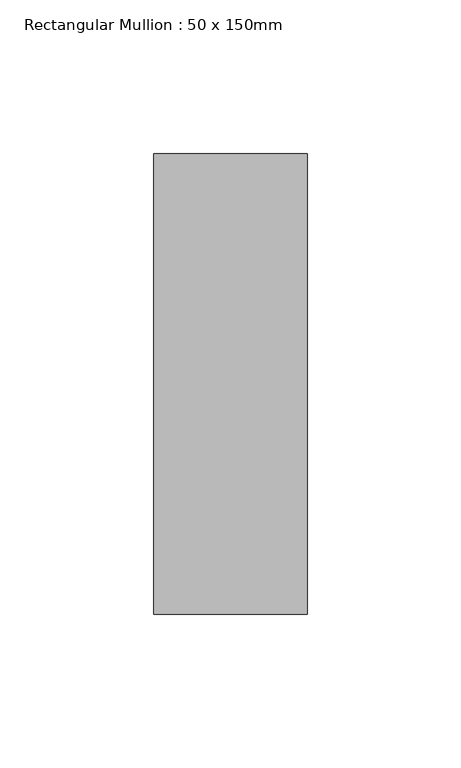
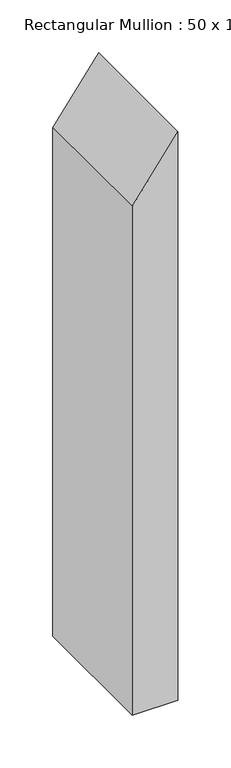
"""IFC4 building model written with IfcOpenShell, lengths in millimetres: member geometry, Rectangular Mullion : 50 x 150mm."""

import ifcopenshell
import ifcopenshell.guid

model = None  # the IFC model being written
_history = None  # IfcOwnerHistory: only IFC2X3 demands one
_inside = {}  # id of a spatial element -> (the spatial element, [elements in it])
_under = {}  # id of a project, library or spatial element -> (it, [spatial elements below it])
_declared = {}  # id of a project -> (the project, [libraries it declares])
_typed = {}  # id of a type object -> (the type object, [elements of that type])
_made_of = {}  # id of a material, layer set ... -> (it, [elements and type objects made of it])


def new_model(schema):
    """Start an empty IFC model of exactly this schema.

    Asked for "IFC4X3", IfcOpenShell would pick the latest addendum, in which some entities
    have other attributes; the version numbers below select the first issue.
    IFC2X3 requires an IfcOwnerHistory on every rooted entity: one is made here for all.
    """
    global model, _history
    if schema == "IFC4X3":
        model = ifcopenshell.file(schema_version=(4, 3, 0, 0))
    else:
        model = ifcopenshell.file(schema=schema)
    _inside.clear()
    _under.clear()
    _declared.clear()
    _typed.clear()
    _made_of.clear()
    _history = None
    if model.schema == "IFC2X3":
        org = make("IfcOrganization", Name="unknown")
        user = make(
            "IfcPersonAndOrganization",
            ThePerson=make("IfcPerson", FamilyName="unknown"),
            TheOrganization=org,
        )
        app = make(
            "IfcApplication",
            ApplicationDeveloper=org,
            Version="unknown",
            ApplicationFullName="unknown",
            ApplicationIdentifier="unknown",
        )
        _history = make(
            "IfcOwnerHistory",
            OwningUser=user,
            OwningApplication=app,
            ChangeAction="ADDED",
            CreationDate=0,
        )
    return model


def make(cls, **values):
    """One entity of the class cls with the attributes given. An attribute that is None is left unset."""
    return model.create_entity(
        cls, **{name: value for name, value in values.items() if value is not None}
    )


def rooted(cls, **values):
    """An entity with a GlobalId (a new one), such as an element, a storey or a relation."""
    return make(cls, GlobalId=ifcopenshell.guid.new(), OwnerHistory=_history, **values)


def si_unit(unit_type, name, prefix=None):
    """IfcSIUnit, for example si_unit("LENGTHUNIT", "METRE", prefix="MILLI")."""
    return make("IfcSIUnit", UnitType=unit_type, Prefix=prefix, Name=name)


def assignment(units):
    """IfcUnitAssignment: the units of a project."""
    return None if units is None else make("IfcUnitAssignment", Units=units)


def point(xyz):
    """IfcCartesianPoint."""
    return None if xyz is None else make("IfcCartesianPoint", Coordinates=xyz)


def direction(xyz):
    """IfcDirection."""
    return None if xyz is None else make("IfcDirection", DirectionRatios=xyz)


def frame(location, z_axis=None, x_axis=None):
    """IfcAxis2Placement3D, a coordinate frame: its origin and axes. An axis left out is left unset."""
    return make(
        "IfcAxis2Placement3D",
        Location=point(location),
        Axis=direction(z_axis),
        RefDirection=direction(x_axis),
    )


def origin():
    """The frame at (0, 0, 0) with its axes left unset."""
    return frame((0.0, 0.0, 0.0))


def place(relative_to, where):
    """IfcLocalPlacement: puts the frame where relative to a parent placement (None: the world)."""
    return make(
        "IfcLocalPlacement", PlacementRelTo=relative_to, RelativePlacement=where
    )


def context(
    kind, dimensions, precision=None, world=None, true_north=None, identifier=None
):
    """IfcGeometricRepresentationContext, for example the 3D "Model" context."""
    return make(
        "IfcGeometricRepresentationContext",
        ContextIdentifier=identifier,
        ContextType=kind,
        CoordinateSpaceDimension=dimensions,
        Precision=precision,
        WorldCoordinateSystem=world,
        TrueNorth=true_north,
    )


def project(units=None, contexts=None):
    """IfcProject with its units and contexts."""
    return rooted(
        "IfcProject",
        Name="project",
        RepresentationContexts=contexts,
        UnitsInContext=assignment(units),
    )


def spatial(cls, under=None, at=None, **own):
    """A site, building, storey or space (cls), placed at a placement, below another one or the project."""
    s = rooted(cls, ObjectPlacement=at, **own)
    if under is not None:
        _under.setdefault(under.id(), (under, []))[1].append(s)
    return s


def polyline(points):
    """IfcPolyline through the points."""
    return make("IfcPolyline", Points=[point(p) for p in points])


def outline(outer, holes=None, kind="AREA"):
    """IfcArbitraryClosedProfileDef: a profile drawn as a closed curve; with holes, ...WithVoids."""
    if holes is None:
        return make("IfcArbitraryClosedProfileDef", ProfileType=kind, OuterCurve=outer)
    return make(
        "IfcArbitraryProfileDefWithVoids",
        ProfileType=kind,
        OuterCurve=outer,
        InnerCurves=holes,
    )


def extrude(swept, where, along, depth):
    """IfcExtrudedAreaSolid: the profile swept, set in the frame where, extruded along a direction by depth."""
    return make(
        "IfcExtrudedAreaSolid",
        SweptArea=swept,
        Position=where,
        ExtrudedDirection=direction(along),
        Depth=depth,
    )


def shape(context_of_items, identifier, shape_type, items):
    """IfcShapeRepresentation: the items that make up one representation, for example the "Body"."""
    return make(
        "IfcShapeRepresentation",
        ContextOfItems=context_of_items,
        RepresentationIdentifier=identifier,
        RepresentationType=shape_type,
        Items=items,
    )


def source(mapping_origin, context_of_items, identifier, shape_type, items):
    """IfcRepresentationMap: a shape defined once, which mapped items show again and again."""
    return make(
        "IfcRepresentationMap",
        MappingOrigin=mapping_origin,
        MappedRepresentation=shape(context_of_items, identifier, shape_type, items),
    )


def transform(
    local_origin,
    x_axis=None,
    y_axis=None,
    z_axis=None,
    scale=None,
    scale2=None,
    scale3=None,
    uniform=True,
):
    """IfcCartesianTransformationOperator3D, or its non-uniform kind. x_axis, y_axis, z_axis: its Axis1, 2, 3."""
    if uniform:
        return make(
            "IfcCartesianTransformationOperator3D",
            Axis1=direction(x_axis),
            Axis2=direction(y_axis),
            LocalOrigin=point(local_origin),
            Scale=scale,
            Axis3=direction(z_axis),
        )
    return make(
        "IfcCartesianTransformationOperator3DnonUniform",
        Axis1=direction(x_axis),
        Axis2=direction(y_axis),
        LocalOrigin=point(local_origin),
        Scale=scale,
        Axis3=direction(z_axis),
        Scale2=scale2,
        Scale3=scale3,
    )


def mapped(mapping_source, mapping_target):
    """IfcMappedItem: shows the shape of a source again, moved by a transform."""
    return make(
        "IfcMappedItem", MappingSource=mapping_source, MappingTarget=mapping_target
    )


def made_of(thing, what):
    """Note that an element or type object is made of a material, layer set ...; save() writes the relation."""
    if what is not None:
        _made_of.setdefault(what.id(), (what, []))[1].append(thing)
    return thing


def element(
    cls,
    number,
    at=None,
    inside=None,
    cuts=None,
    type_object=None,
    material=None,
    context=None,
    identifier="Body",
    shape_type=None,
    held_by="IfcProductDefinitionShape",
    body=None,
    shapes=None,
    **own,
):
    """One element of the class cls, such as IfcWall. Its Tag is "e" and its number.

    at: its placement. inside: the storey or other place that contains it. cuts: it is an
    opening in that element (IfcRelVoidsElement). A single representation is given by context,
    identifier, shape_type and body (its items); several are given by shapes. held_by: the class
    of the entity that holds the representations. save() writes the other relations.
    """
    e = rooted(cls, Tag="e%d" % number, ObjectPlacement=at, **own)
    if body is not None:
        shapes = [shape(context, identifier, shape_type, body)]
    if shapes is not None:
        e.Representation = make(held_by, Representations=shapes)
    if inside is not None:
        _inside.setdefault(inside.id(), (inside, []))[1].append(e)
    if cuts is not None:
        rooted(
            "IfcRelVoidsElement", RelatingBuildingElement=cuts, RelatedOpeningElement=e
        )
    if type_object is not None:
        _typed.setdefault(type_object.id(), (type_object, []))[1].append(e)
    return made_of(e, material)


def aggregate(whole, parts):
    """IfcRelAggregates: a whole, such as a stair, and the parts it consists of."""
    return rooted("IfcRelAggregates", RelatingObject=whole, RelatedObjects=parts)


def save(model, path):
    """Write the relations noted so far, then the file.

    IfcRelAggregates (storeys below a building ...), IfcRelContainedInSpatialStructure (elements
    in a storey), IfcRelDefinesByType, IfcRelAssociatesMaterial and IfcRelDeclares: one each for
    every whole, place, type object, material and project.
    """
    for whole, parts in _under.values():
        aggregate(whole, parts)
    for where, things in _inside.values():
        rooted(
            "IfcRelContainedInSpatialStructure",
            RelatedElements=things,
            RelatingStructure=where,
        )
    for kind, things in _typed.values():
        rooted("IfcRelDefinesByType", RelatedObjects=things, RelatingType=kind)
    for what, things in _made_of.values():
        rooted("IfcRelAssociatesMaterial", RelatedObjects=things, RelatingMaterial=what)
    for by, libraries in _declared.values():
        rooted("IfcRelDeclares", RelatingContext=by, RelatedDefinitions=libraries)
    model.write(path)


def rectangular_mullion_50_x_150mm_ecfa3ac2(model_context):
    return source(origin(), model_context, "Body", "SweptSolid", [
        extrude(outline(polyline([(-50.6555328, 25.0), (-119.4746288, -25.0), (-707.2881388, -25.0), (-707.2881388, 25.0), (-50.6555328, 25.0)])), frame((0.0, -75.0, 0.0), z_axis=(0.0, 1.0, 0.0), x_axis=(0.0, 0.0, 1.0)), (0.0, 0.0, 1.0), 150.0),
    ])


if __name__ == "__main__":
    model = new_model("IFC4")
    model_context = context("Model", 3, world=origin())
    ifc_project = project(units=[si_unit("LENGTHUNIT", "METRE", prefix="MILLI")], contexts=[model_context])
    site = spatial("IfcSite", under=ifc_project)
    building = spatial("IfcBuilding", under=site)
    placement = place(None, origin())
    rectangular_mullion_50_x_150mm_shape = rectangular_mullion_50_x_150mm_ecfa3ac2(model_context)
    element("IfcMember", 1, ObjectType="Rectangular Mullion : 50 x 150mm", at=placement, inside=building, context=model_context, shape_type="MappedRepresentation", body=[
        mapped(rectangular_mullion_50_x_150mm_shape, transform((0.0, 0.0, 0.0), x_axis=(1.0, 0.0, 0.0), y_axis=(0.0, 1.0, 0.0), z_axis=(0.0, 0.0, 1.0))),
    ])
    save(model, "model.ifc")
